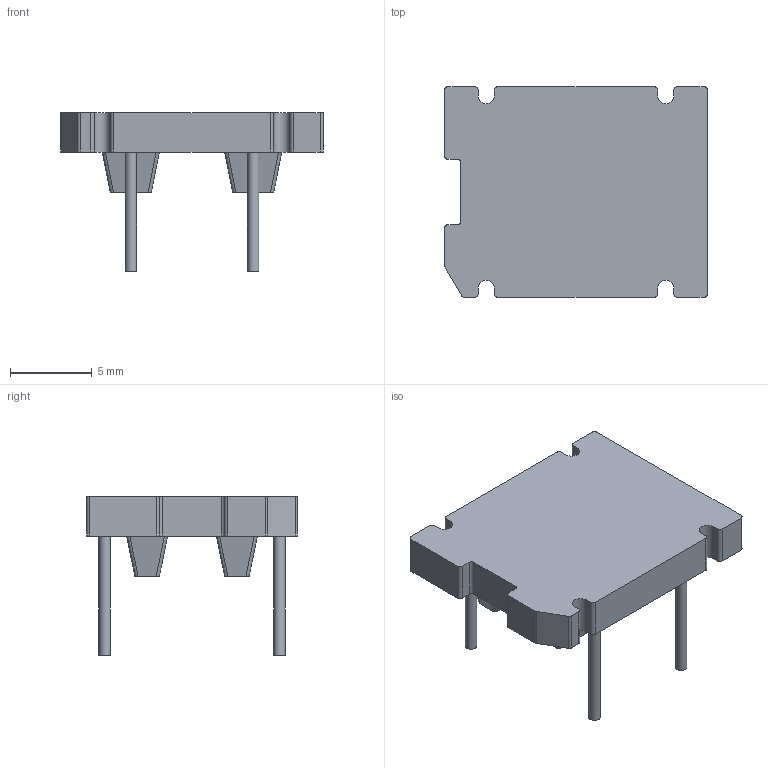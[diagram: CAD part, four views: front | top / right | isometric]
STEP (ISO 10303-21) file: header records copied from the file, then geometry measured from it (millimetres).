
FILE_DESCRIPTION(('FreeCAD Model'),'2;1');
FILE_NAME('Open CASCADE Shape Model','2026-08-26T08:58:56',(''),(''), 'Open CASCADE STEP processor 7.8','FreeCAD','Unknown');
FILE_SCHEMA(('AUTOMOTIVE_DESIGN { 1 0 10303 214 1 1 1 1 }'));
Length unit declared in the file: millimetre
Products named in the file (6): POD_16X13_4P; Pin004; Pin003; Pin002; Pin001; Base
Assembly tree (5 placements, depth 2):
  POD_16X13_4P
    Pin004
    Pin003
    Pin002
    Pin001
    Base
Bounding box: 16.1 x 12.9 x 9.7 mm (x, y, z)
Volume: 548.8 mm3; surface area: 716.2 mm2
Topology: 5 solids, 5 shells, 100 faces, 246 edges, 164 vertices
Faces by surface type: plane 39, bspline 32, cylinder 29
Full cylindrical faces by diameter (mm): 0.7 x8
Entity records: 4390 total; most frequent: CARTESIAN_POINT 2052, ORIENTED_EDGE 492, DIRECTION 388, EDGE_CURVE 246, VERTEX_POINT 164, AXIS2_PLACEMENT_3D 132, LINE 124, VECTOR 124
